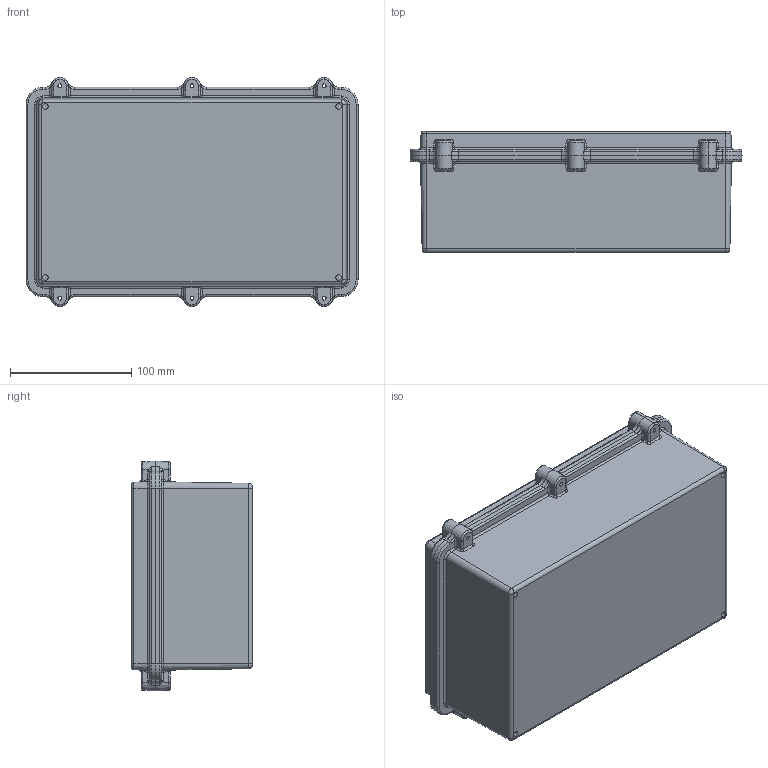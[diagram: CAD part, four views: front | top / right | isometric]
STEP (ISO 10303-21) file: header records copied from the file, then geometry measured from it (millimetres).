
FILE_DESCRIPTION (( 'STEP AP203' ), '1' );
FILE_NAME ('SE-582-0-0.STEP', '2018-10-01T06:29:01', ( '' ), ( '' ), 'SwSTEP 2.0', 'SolidWorks 2018', '' );
FILE_SCHEMA (( 'CONFIG_CONTROL_DESIGN' ));
Length unit declared in the file: millimetre
Products named in the file (3): SE-582-P-1; SE-582-0-0; SE-574-P-2
Assembly tree (2 placements, depth 2):
  SE-582-0-0
    SE-582-P-1
    SE-574-P-2
Bounding box: 274 x 99.9 x 189.5 mm (x, y, z)
Volume: 480701.8 mm3; surface area: 362882.4 mm2
Topology: 2 solids, 2 shells, 1082 faces, 2550 edges, 1480 vertices
Faces by surface type: cylinder 418, plane 228, bspline 190, torus 120, cone 100, sphere 26
Entity records: 36243 total; most frequent: CARTESIAN_POINT 12293, ORIENTED_EDGE 5048, DIRECTION 4994, EDGE_CURVE 2524, AXIS2_PLACEMENT_3D 1977, VERTEX_POINT 1480, EDGE_LOOP 1140, FACE_OUTER_BOUND 1082
